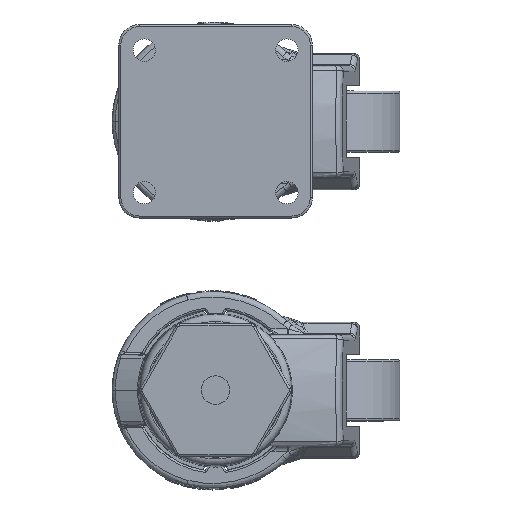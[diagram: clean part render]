
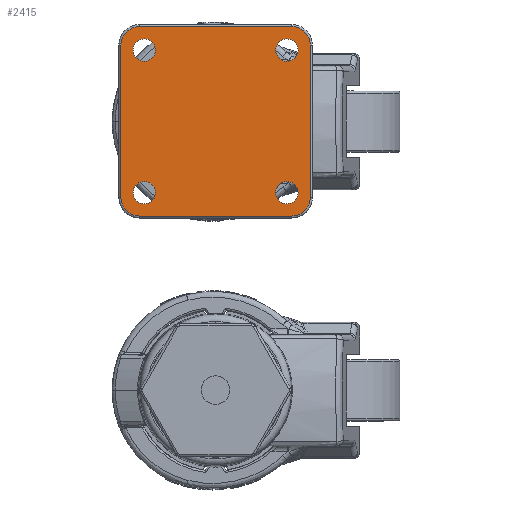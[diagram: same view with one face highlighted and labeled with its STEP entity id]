
A CAD part, top view. The second image highlights one B-rep face of the part: STEP entity #2415.
In plain terms, the highlighted planar face has unit normal (0, 0, 1).
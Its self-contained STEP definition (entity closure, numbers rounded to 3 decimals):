
#428=PLANE('',#17733);
#2415=ADVANCED_FACE('',(#4441,#4442,#4443,#4444,#4445),#428,.T.);
#4441=FACE_BOUND('',#4983,.T.);
#4442=FACE_BOUND('',#4984,.T.);
#4443=FACE_BOUND('',#4985,.T.);
#4444=FACE_BOUND('',#4986,.T.);
#4445=FACE_BOUND('',#4987,.T.);
#4983=EDGE_LOOP('',(#9534,#9535,#9536,#9537,#9538,#9539,#9540,#9541));
#4984=EDGE_LOOP('',(#9542));
#4985=EDGE_LOOP('',(#9543));
#4986=EDGE_LOOP('',(#9544));
#4987=EDGE_LOOP('',(#9545));
#5996=LINE('',#30418,#6890);
#5997=LINE('',#30423,#6891);
#5998=LINE('',#30427,#6892);
#5999=LINE('',#30431,#6893);
#6890=VECTOR('',#20102,1.);
#6891=VECTOR('',#20105,1.);
#6892=VECTOR('',#20108,1.);
#6893=VECTOR('',#20111,1.);
#9534=ORIENTED_EDGE('',*,*,#15099,.T.);
#9535=ORIENTED_EDGE('',*,*,#15100,.T.);
#9536=ORIENTED_EDGE('',*,*,#15101,.T.);
#9537=ORIENTED_EDGE('',*,*,#15102,.T.);
#9538=ORIENTED_EDGE('',*,*,#15103,.T.);
#9539=ORIENTED_EDGE('',*,*,#15104,.T.);
#9540=ORIENTED_EDGE('',*,*,#15105,.T.);
#9541=ORIENTED_EDGE('',*,*,#15106,.T.);
#9542=ORIENTED_EDGE('',*,*,#15107,.T.);
#9543=ORIENTED_EDGE('',*,*,#15108,.T.);
#9544=ORIENTED_EDGE('',*,*,#15109,.T.);
#9545=ORIENTED_EDGE('',*,*,#15110,.T.);
#13154=VERTEX_POINT('',#30419);
#13155=VERTEX_POINT('',#30420);
#13156=VERTEX_POINT('',#30422);
#13157=VERTEX_POINT('',#30424);
#13158=VERTEX_POINT('',#30426);
#13159=VERTEX_POINT('',#30428);
#13160=VERTEX_POINT('',#30430);
#13161=VERTEX_POINT('',#30432);
#13162=VERTEX_POINT('',#30435);
#13163=VERTEX_POINT('',#30437);
#13164=VERTEX_POINT('',#30439);
#13165=VERTEX_POINT('',#30441);
#15099=EDGE_CURVE('',#13154,#13155,#5996,.T.);
#15100=EDGE_CURVE('',#13155,#13156,#16773,.T.);
#15101=EDGE_CURVE('',#13156,#13157,#5997,.T.);
#15102=EDGE_CURVE('',#13157,#13158,#16774,.T.);
#15103=EDGE_CURVE('',#13158,#13159,#5998,.T.);
#15104=EDGE_CURVE('',#13159,#13160,#16775,.T.);
#15105=EDGE_CURVE('',#13160,#13161,#5999,.T.);
#15106=EDGE_CURVE('',#13161,#13154,#16776,.T.);
#15107=EDGE_CURVE('',#13162,#13162,#16777,.T.);
#15108=EDGE_CURVE('',#13163,#13163,#16778,.T.);
#15109=EDGE_CURVE('',#13164,#13164,#16779,.T.);
#15110=EDGE_CURVE('',#13165,#13165,#16780,.T.);
#16773=CIRCLE('',#17725,9.);
#16774=CIRCLE('',#17726,9.);
#16775=CIRCLE('',#17727,9.);
#16776=CIRCLE('',#17728,9.);
#16777=CIRCLE('',#17729,5.5);
#16778=CIRCLE('',#17730,5.5);
#16779=CIRCLE('',#17731,5.5);
#16780=CIRCLE('',#17732,5.5);
#17725=AXIS2_PLACEMENT_3D('',#30421,#20103,#20104);
#17726=AXIS2_PLACEMENT_3D('',#30425,#20106,#20107);
#17727=AXIS2_PLACEMENT_3D('',#30429,#20109,#20110);
#17728=AXIS2_PLACEMENT_3D('',#30433,#20112,#20113);
#17729=AXIS2_PLACEMENT_3D('',#30434,#20114,#20115);
#17730=AXIS2_PLACEMENT_3D('',#30436,#20116,#20117);
#17731=AXIS2_PLACEMENT_3D('',#30438,#20118,#20119);
#17732=AXIS2_PLACEMENT_3D('',#30440,#20120,#20121);
#17733=AXIS2_PLACEMENT_3D('',#30442,#20122,#20123);
#20102=DIRECTION('',(0.,-1.,0.));
#20103=DIRECTION('',(0.,0.,1.));
#20104=DIRECTION('',(1.,0.,0.));
#20105=DIRECTION('',(1.,0.,0.));
#20106=DIRECTION('',(0.,0.,1.));
#20107=DIRECTION('',(1.,0.,0.));
#20108=DIRECTION('',(0.,1.,0.));
#20109=DIRECTION('',(0.,0.,1.));
#20110=DIRECTION('',(1.,0.,0.));
#20111=DIRECTION('',(-1.,0.,0.));
#20112=DIRECTION('',(0.,0.,1.));
#20113=DIRECTION('',(1.,0.,0.));
#20114=DIRECTION('',(0.,0.,-1.));
#20115=DIRECTION('',(1.,0.,0.));
#20116=DIRECTION('',(0.,0.,-1.));
#20117=DIRECTION('',(1.,0.,0.));
#20118=DIRECTION('',(0.,0.,-1.));
#20119=DIRECTION('',(1.,0.,0.));
#20120=DIRECTION('',(0.,0.,-1.));
#20121=DIRECTION('',(1.,0.,0.));
#20122=DIRECTION('',(0.,0.,1.));
#20123=DIRECTION('',(1.,0.,0.));
#30418=CARTESIAN_POINT('',(90.408,91.235,-157.53));
#30419=CARTESIAN_POINT('',(90.408,128.735,-157.53));
#30420=CARTESIAN_POINT('',(90.408,53.735,-157.53));
#30421=CARTESIAN_POINT('',(99.408,53.735,-157.53));
#30422=CARTESIAN_POINT('',(99.408,44.735,-157.53));
#30423=CARTESIAN_POINT('',(136.908,44.735,-157.53));
#30424=CARTESIAN_POINT('',(174.408,44.735,-157.53));
#30425=CARTESIAN_POINT('',(174.408,53.735,-157.53));
#30426=CARTESIAN_POINT('',(183.408,53.735,-157.53));
#30427=CARTESIAN_POINT('',(183.408,128.735,-157.53));
#30428=CARTESIAN_POINT('',(183.408,128.735,-157.53));
#30429=CARTESIAN_POINT('',(174.408,128.735,-157.53));
#30430=CARTESIAN_POINT('',(174.408,137.735,-157.53));
#30431=CARTESIAN_POINT('',(136.908,137.735,-157.53));
#30432=CARTESIAN_POINT('',(99.408,137.735,-157.53));
#30433=CARTESIAN_POINT('',(99.408,128.735,-157.53));
#30434=CARTESIAN_POINT('',(101.908,56.235,-157.53));
#30435=CARTESIAN_POINT('',(107.408,56.235,-157.53));
#30436=CARTESIAN_POINT('',(101.908,126.235,-157.53));
#30437=CARTESIAN_POINT('',(107.408,126.235,-157.53));
#30438=CARTESIAN_POINT('',(171.908,56.235,-157.53));
#30439=CARTESIAN_POINT('',(177.408,56.235,-157.53));
#30440=CARTESIAN_POINT('',(171.908,126.235,-157.53));
#30441=CARTESIAN_POINT('',(177.408,126.235,-157.53));
#30442=CARTESIAN_POINT('',(136.908,91.235,-157.53));
